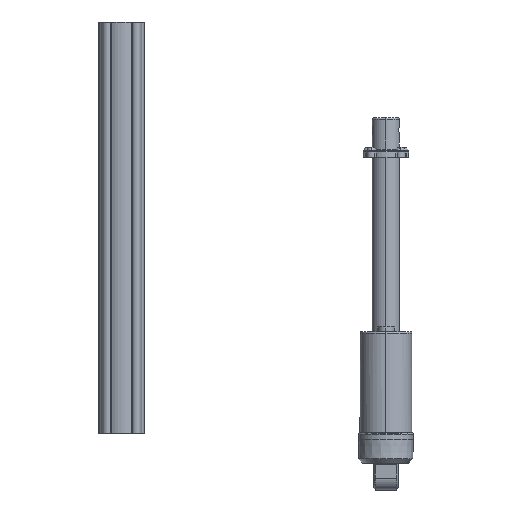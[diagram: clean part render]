
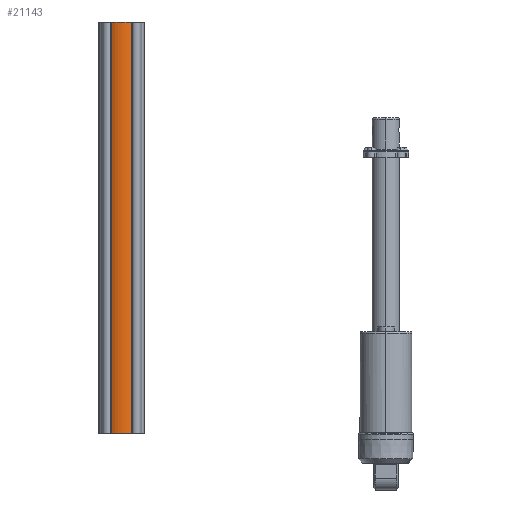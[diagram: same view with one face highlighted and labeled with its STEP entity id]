
A CAD part, left-side view. The second image highlights one B-rep face of the part: STEP entity #21143.
In plain terms, the highlighted cylindrical face has radius 15 mm (diameter 30 mm), a partial arc.
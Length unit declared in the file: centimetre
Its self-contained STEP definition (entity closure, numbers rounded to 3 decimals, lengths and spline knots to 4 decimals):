
#3224=CYLINDRICAL_SURFACE('',#23807,1.5);
#4313=LINE('',#34743,#25443);
#4314=LINE('',#34749,#25444);
#5996=VERTEX_POINT('',#34742);
#5997=VERTEX_POINT('',#34744);
#5998=VERTEX_POINT('',#34748);
#5999=VERTEX_POINT('',#34750);
#7784=CIRCLE('',#23808,1.5);
#7785=CIRCLE('',#23809,1.5);
#10422=EDGE_CURVE('',#5997,#5996,#4313,.T.);
#10424=EDGE_CURVE('',#5996,#5998,#7784,.T.);
#10425=EDGE_CURVE('',#5999,#5998,#4314,.T.);
#10426=EDGE_CURVE('',#5999,#5997,#7785,.T.);
#15720=ORIENTED_EDGE('',*,*,#10424,.T.);
#15721=ORIENTED_EDGE('',*,*,#10425,.F.);
#15722=ORIENTED_EDGE('',*,*,#10426,.T.);
#15723=ORIENTED_EDGE('',*,*,#10422,.T.);
#18585=EDGE_LOOP('',(#15720,#15721,#15722,#15723));
#19893=FACE_BOUND('',#18585,.T.);
#21143=ADVANCED_FACE('',(#19893),#3224,.T.);
#23807=AXIS2_PLACEMENT_3D('',#34746,#42604,#42605);
#23808=AXIS2_PLACEMENT_3D('',#34747,#42606,#42607);
#23809=AXIS2_PLACEMENT_3D('',#34751,#42609,#42610);
#25443=VECTOR('',#42601,1.);
#25444=VECTOR('',#42608,1.);
#34742=CARTESIAN_POINT('',(14.8607,18.6992,30.2));
#34743=CARTESIAN_POINT('',(14.8607,18.6992,0.));
#34744=CARTESIAN_POINT('',(14.8607,18.6992,0.));
#34746=CARTESIAN_POINT('',(16.1761,19.42,0.));
#34747=CARTESIAN_POINT('',(16.1761,19.42,30.2));
#34748=CARTESIAN_POINT('',(14.8607,20.1407,30.2));
#34749=CARTESIAN_POINT('',(14.8607,20.1407,0.));
#34750=CARTESIAN_POINT('',(14.8607,20.1407,0.));
#34751=CARTESIAN_POINT('',(16.1761,19.42,0.));
#42601=DIRECTION('',(0.,0.,1.));
#42604=DIRECTION('',(0.,0.,1.));
#42605=DIRECTION('',(1.5,0.,0.));
#42606=DIRECTION('',(0.,0.,-1.));
#42607=DIRECTION('',(1.5,0.,0.));
#42608=DIRECTION('',(0.,0.,1.));
#42609=DIRECTION('',(0.,0.,1.));
#42610=DIRECTION('',(1.5,0.,0.));
